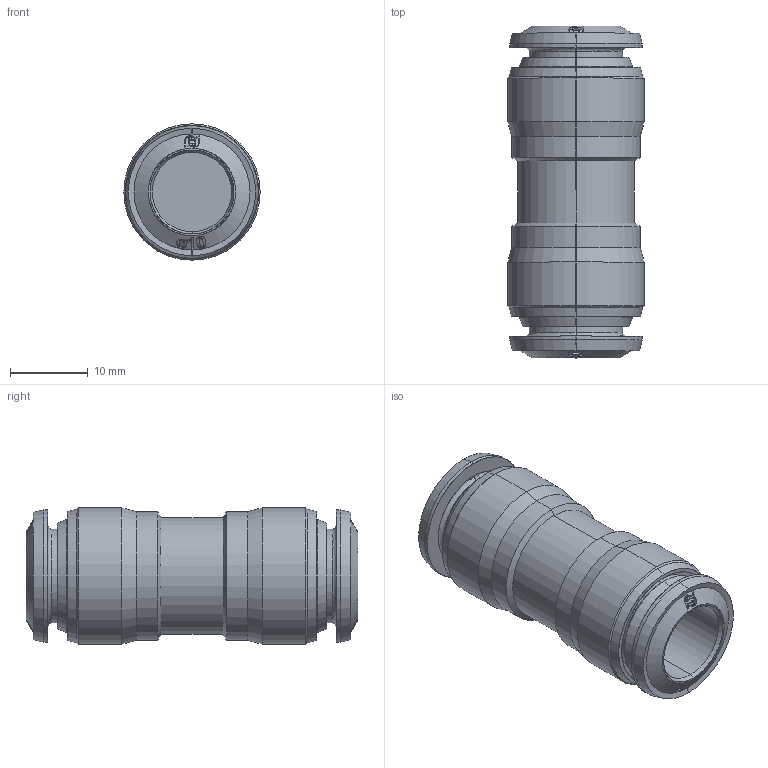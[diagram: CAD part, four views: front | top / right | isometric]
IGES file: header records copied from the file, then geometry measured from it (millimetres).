
Start section: SolidWorks IGES file using analytic representation for surfaces
Global section: file name: K:\Disegni Esecutivi\Serie 50000\ASSIEMI\50040\ASSIEMI_PIENI_50040\5004000006.IGS; native system: SolidWorks 2007; preprocessor: SolidWorks 2007; author: cad02; date: 071011.095801; units: millimetre
Bounding box: 17.5 x 42.6 x 17.5 mm (x, y, z)
Surface area: 4542.2 mm2 (no closed solid volume)
Topology: 0 solids, 0 shells, 240 faces, 2772 edges, 2772 vertices
Faces by surface type: bspline 134, revolution 106
